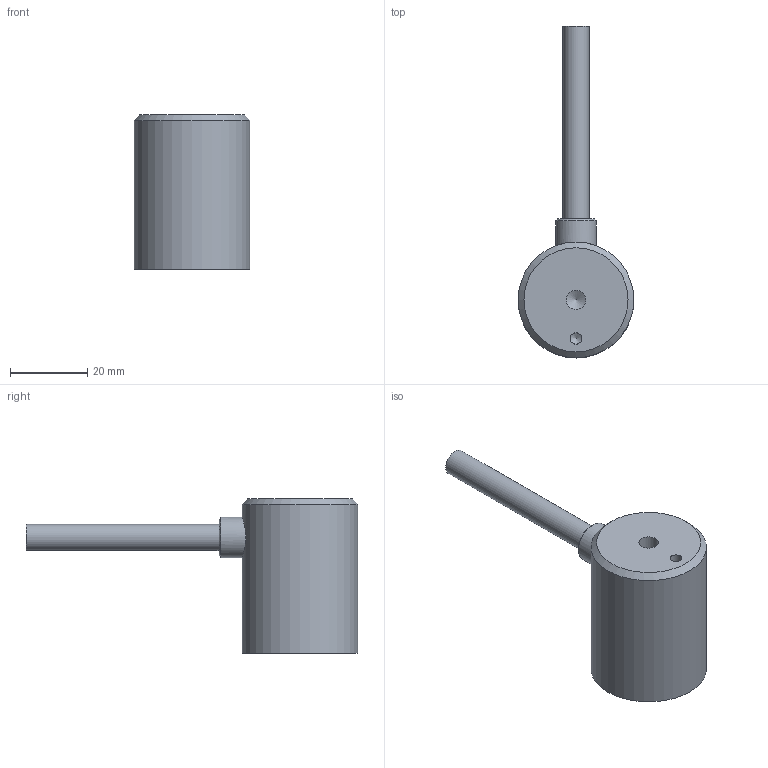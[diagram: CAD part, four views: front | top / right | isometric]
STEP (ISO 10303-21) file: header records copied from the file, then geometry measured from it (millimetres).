
FILE_DESCRIPTION(/* description */ (''),/* implementation_level */ '2;1');
FILE_NAME(/* name */ 'EMH-1-30Dx40H-S-DC24V.step',/* time_stamp */ '2023-12-15T11:41:54+09:00',/* author */ (''),/* organization */ (''),/* preprocessor_version */ 'ST-DEVELOPER v20',/* originating_system */ 'Autodesk Translation Framework v12.14.0.127',/* authorisation */ '');
FILE_SCHEMA (('AUTOMOTIVE_DESIGN { 1 0 10303 214 3 1 1 }'));
Length unit declared in the file: millimetre
Products named in the file (3): EMH-1-30Dx40H-S-DC24V; BODY; Cable
Assembly tree (2 placements, depth 2):
  EMH-1-30Dx40H-S-DC24V
    BODY
    Cable
Bounding box: 30 x 86 x 40 mm (x, y, z)
Volume: 30167.7 mm3; surface area: 6687.2 mm2
Topology: 2 solids, 2 shells, 18 faces, 32 edges, 21 vertices
Faces by surface type: plane 7, cylinder 7, cone 4
Full cylindrical faces by diameter (mm): 3 x1, 5.035 x1, 6.8 x1, 10.5 x1, 12 x1, 26 x1, 30 x1
Entity records: 580 total; most frequent: CARTESIAN_POINT 110, DIRECTION 89, ORIENTED_EDGE 60, AXIS2_PLACEMENT_3D 39, EDGE_CURVE 30, EDGE_LOOP 23, VERTEX_POINT 21, FACE_OUTER_BOUND 18
